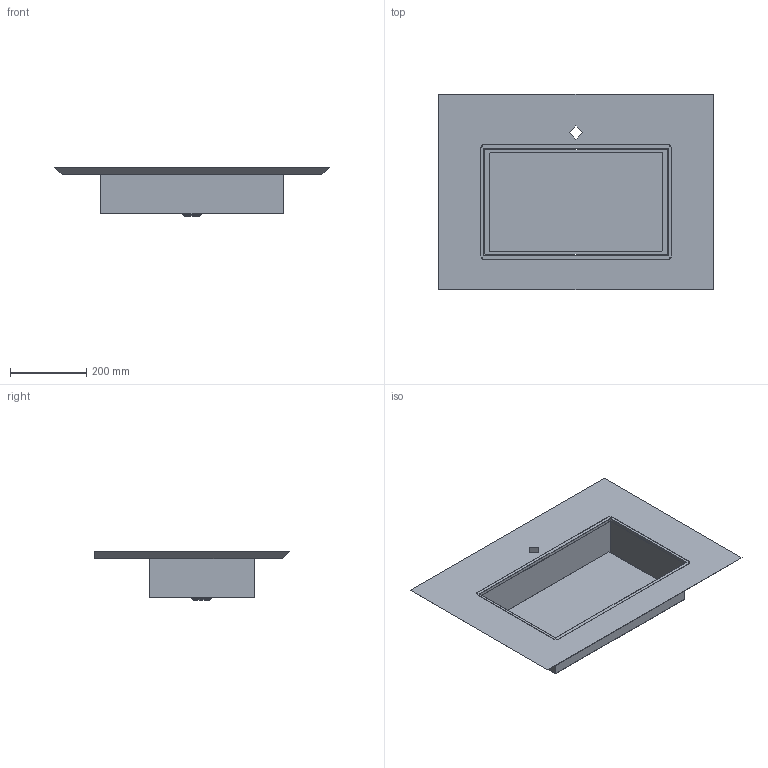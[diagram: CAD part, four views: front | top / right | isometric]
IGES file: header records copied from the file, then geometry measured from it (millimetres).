
Start section: Data from Parasolid IGES Translator 22.0.50, Copyright(c) 2006 Siemens P LM Software. All Rights Reserved.
Global section: file name: noorth-top-H 2 D 51,2 W 72_5461.igs; native system: By Siemens PLM Incorporated; preprocessor: XPlus GENERIC/IGES 22.0.50; author: Noname; organization: Noname; date: 20251109.202505; units: metre
Bounding box: 720 x 512 x 127.88 mm (x, y, z)
Volume: 21790917.7 mm3; surface area: 2854680 mm2
Topology: 3 solids, 3 shells, 3062 faces, 9074 edges, 8946 vertices
Faces by surface type: extrusion 2957, plane 66, bspline 34, cylinder 5
Full cylindrical faces by diameter (mm): 34.697 x1
